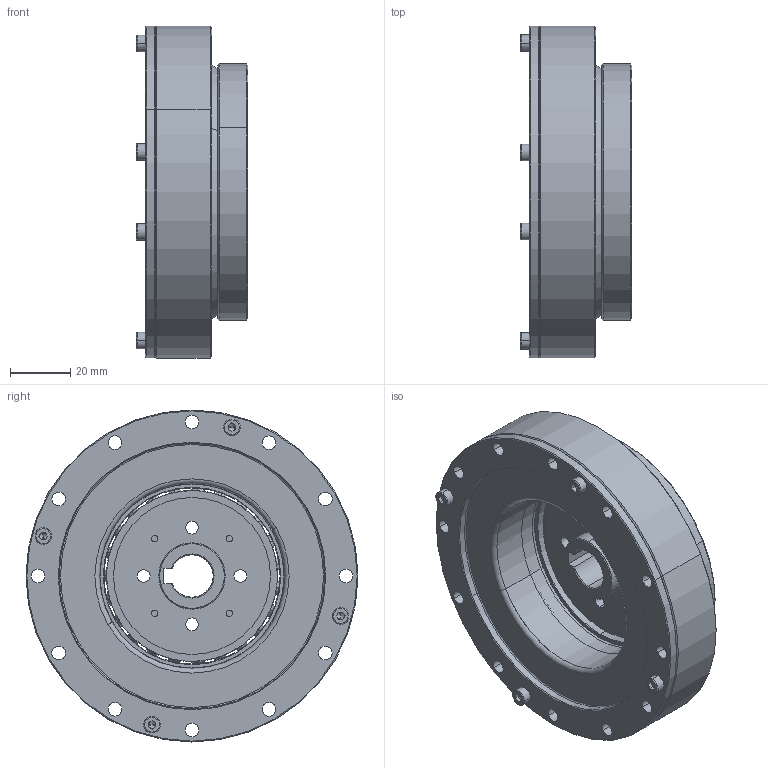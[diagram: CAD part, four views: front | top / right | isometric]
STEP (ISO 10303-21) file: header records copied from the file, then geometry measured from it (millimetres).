
FILE_DESCRIPTION (( 'STEP AP203' ), '1' );
FILE_NAME ('LHSG-25-XXX-C-I.STEP', '2016-08-19T03:11:05', ( 'Windows 蚚誧' ), ( 'Users' ), 'SwSTEP 2.0', 'SolidWorks 2013', '' );
FILE_SCHEMA (( 'CONFIG_CONTROL_DESIGN' ));
Length unit declared in the file: millimetre
Products named in the file (14): LHS-25-XXX-P03-I; DB-25-I; countersunk flat head cross recess screw_din_ISO 7046-1 - M2.5 x 4 - Z --- 4C; LHS-25-XXX-P01-I; RZC-25G内外圈+钢球; LHS-25-XXX-P04-I; RZC-25悵厥殤; LHS-25-XXX-P02-I; 柔性轴承RZC-25G; 15Z-84945; LHSG-25-I疏楷汜ん; socket head cap screw_din_内六角圆柱头螺钉M3 x 8; LHSG-25-XXX-C-I; socket head cap screw_din_内六角圆柱头螺钉M3 x 10
Assembly tree (22 placements, depth 4):
  LHSG-25-XXX-C-I
    LHS-25-XXX-P01-I
    LHS-25-XXX-P04-I
    LHS-25-XXX-P02-I
    15Z-84945
    socket head cap screw_din_内六角圆柱头螺钉M3 x 8  x4
    socket head cap screw_din_内六角圆柱头螺钉M3 x 10  x4
    LHSG-25-I疏楷汜ん
      LHS-25-XXX-P03-I
      DB-25-I
      countersunk flat head cross recess screw_din_ISO 7046-1 - M2.5 x 4 - Z --- 4C  x4
      柔性轴承RZC-25G
        RZC-25G内外圈+钢球
        RZC-25悵厥殤
Bounding box: 37 x 110 x 110 mm (x, y, z)
Volume: 169572.4 mm3; surface area: 109063.5 mm2
Topology: 45 solids, 45 shells, 973 faces, 2379 edges, 1439 vertices
Faces by surface type: cylinder 361, plane 294, cone 194, torus 78, sphere 46
Entity records: 21860 total; most frequent: DIRECTION 3971, CARTESIAN_POINT 3356, ORIENTED_EDGE 3160, AXIS2_PLACEMENT_3D 1693, EDGE_CURVE 1580, VERTEX_POINT 1010, CIRCLE 978, EDGE_LOOP 882
